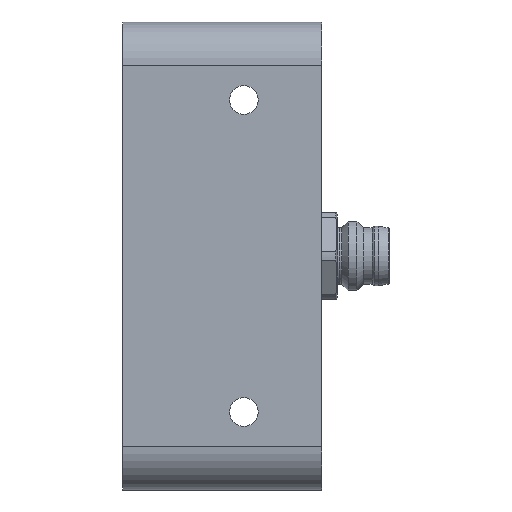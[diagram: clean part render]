
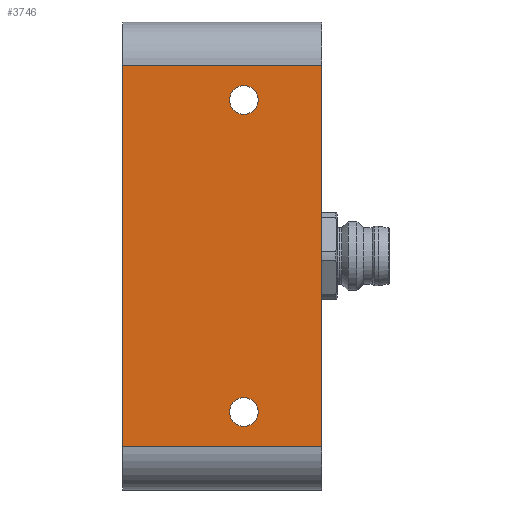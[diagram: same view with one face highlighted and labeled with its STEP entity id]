
A CAD part, left-side view. The second image highlights one B-rep face of the part: STEP entity #3746.
In plain terms, the highlighted planar face has unit normal (-1, 0, 0).
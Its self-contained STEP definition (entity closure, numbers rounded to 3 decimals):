
#76 = CARTESIAN_POINT ( 'NONE',  ( -55., -14., -18. ) ) ;
#136 = CIRCLE ( 'NONE', #1276, 1.65 ) ;
#191 = DIRECTION ( 'NONE',  ( 0., 0., -1. ) ) ;
#314 = CARTESIAN_POINT ( 'NONE',  ( -55., 0., 27. ) ) ;
#358 = VECTOR ( 'NONE', #4415, 1000. ) ;
#371 = FACE_BOUND ( 'NONE', #3077, .T. ) ;
#583 = CARTESIAN_POINT ( 'NONE',  ( -55., -23., -22. ) ) ;
#741 = ORIENTED_EDGE ( 'NONE', *, *, #1590, .T. ) ;
#796 = CARTESIAN_POINT ( 'NONE',  ( -55., -14., 19.65 ) ) ;
#810 = LINE ( 'NONE', #1612, #927 ) ;
#927 = VECTOR ( 'NONE', #4057, 1000. ) ;
#939 = ORIENTED_EDGE ( 'NONE', *, *, #983, .F. ) ;
#983 = EDGE_CURVE ( 'NONE', #3528, #1040, #3678, .T. ) ;
#1040 = VERTEX_POINT ( 'NONE', #583 ) ;
#1086 = CARTESIAN_POINT ( 'NONE',  ( -55., 0., -22. ) ) ;
#1132 = VECTOR ( 'NONE', #4037, 1000. ) ;
#1276 = AXIS2_PLACEMENT_3D ( 'NONE', #4493, #2057, #1991 ) ;
#1415 = DIRECTION ( 'NONE',  ( 1., 0., 0. ) ) ;
#1512 = AXIS2_PLACEMENT_3D ( 'NONE', #76, #3838, #2453 ) ;
#1585 = EDGE_LOOP ( 'NONE', ( #3749, #1691, #939, #741 ) ) ;
#1590 = EDGE_CURVE ( 'NONE', #3528, #3683, #2077, .T. ) ;
#1612 = CARTESIAN_POINT ( 'NONE',  ( -55., 0., -22. ) ) ;
#1691 = ORIENTED_EDGE ( 'NONE', *, *, #4053, .T. ) ;
#1762 = ORIENTED_EDGE ( 'NONE', *, *, #1967, .F. ) ;
#1853 = FACE_OUTER_BOUND ( 'NONE', #1585, .T. ) ;
#1877 = EDGE_CURVE ( 'NONE', #3769, #3769, #136, .T. ) ;
#1931 = CARTESIAN_POINT ( 'NONE',  ( -55., 0., 27. ) ) ;
#1967 = EDGE_CURVE ( 'NONE', #4536, #4536, #4479, .T. ) ;
#1971 = FACE_BOUND ( 'NONE', #3399, .T. ) ;
#1991 = DIRECTION ( 'NONE',  ( 0., 0., 1. ) ) ;
#2057 = DIRECTION ( 'NONE',  ( -1., 0., 0. ) ) ;
#2074 = LINE ( 'NONE', #1931, #358 ) ;
#2077 = LINE ( 'NONE', #3670, #1132 ) ;
#2453 = DIRECTION ( 'NONE',  ( 0., 0., 1. ) ) ;
#2680 = ORIENTED_EDGE ( 'NONE', *, *, #1877, .F. ) ;
#2751 = PLANE ( 'NONE',  #3213 ) ;
#2872 = CARTESIAN_POINT ( 'NONE',  ( -55., -14., -16.35 ) ) ;
#3077 = EDGE_LOOP ( 'NONE', ( #2680 ) ) ;
#3213 = AXIS2_PLACEMENT_3D ( 'NONE', #314, #1415, #4511 ) ;
#3347 = VERTEX_POINT ( 'NONE', #1086 ) ;
#3399 = EDGE_LOOP ( 'NONE', ( #1762 ) ) ;
#3528 = VERTEX_POINT ( 'NONE', #4366 ) ;
#3670 = CARTESIAN_POINT ( 'NONE',  ( -55., 0., 22. ) ) ;
#3678 = LINE ( 'NONE', #4394, #3947 ) ;
#3683 = VERTEX_POINT ( 'NONE', #3783 ) ;
#3746 = ADVANCED_FACE ( 'NONE', ( #371, #1971, #1853 ), #2751, .F. ) ;
#3749 = ORIENTED_EDGE ( 'NONE', *, *, #4019, .F. ) ;
#3769 = VERTEX_POINT ( 'NONE', #796 ) ;
#3783 = CARTESIAN_POINT ( 'NONE',  ( -55., 0., 22. ) ) ;
#3838 = DIRECTION ( 'NONE',  ( -1., 0., 0. ) ) ;
#3947 = VECTOR ( 'NONE', #191, 1000. ) ;
#4019 = EDGE_CURVE ( 'NONE', #3347, #3683, #2074, .T. ) ;
#4037 = DIRECTION ( 'NONE',  ( 0., 1., 0. ) ) ;
#4053 = EDGE_CURVE ( 'NONE', #3347, #1040, #810, .T. ) ;
#4057 = DIRECTION ( 'NONE',  ( 0., -1., 0. ) ) ;
#4366 = CARTESIAN_POINT ( 'NONE',  ( -55., -23., 22. ) ) ;
#4394 = CARTESIAN_POINT ( 'NONE',  ( -55., -23., -22. ) ) ;
#4415 = DIRECTION ( 'NONE',  ( 0., 0., 1. ) ) ;
#4479 = CIRCLE ( 'NONE', #1512, 1.65 ) ;
#4493 = CARTESIAN_POINT ( 'NONE',  ( -55., -14., 18. ) ) ;
#4511 = DIRECTION ( 'NONE',  ( 0., 0., -1. ) ) ;
#4536 = VERTEX_POINT ( 'NONE', #2872 ) ;
